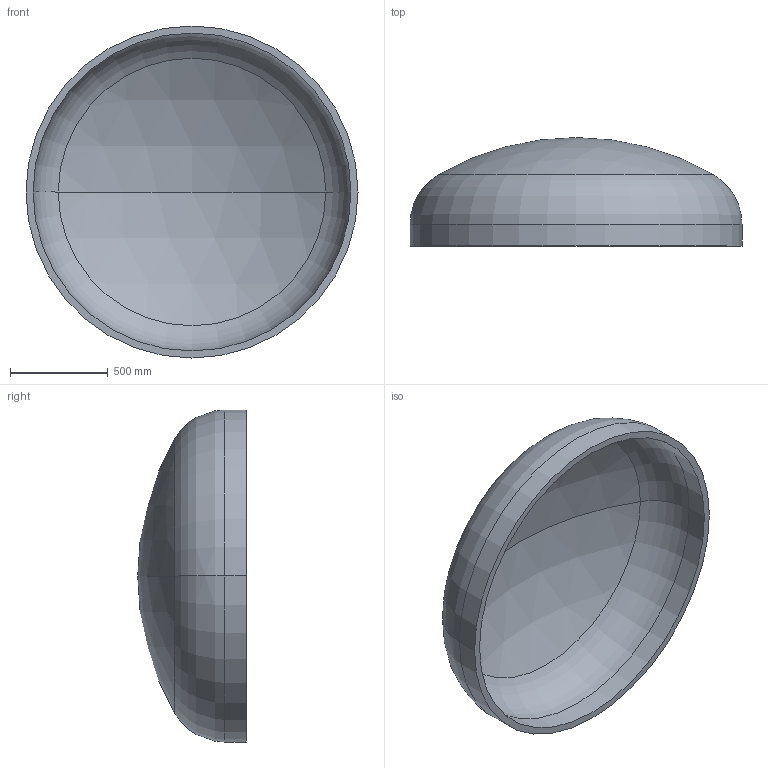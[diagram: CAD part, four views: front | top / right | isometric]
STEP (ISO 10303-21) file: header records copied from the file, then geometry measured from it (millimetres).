
FILE_DESCRIPTION (( 'STEP AP203' ), '1' );
FILE_NAME ('DIN 28013 Korbbogenform_-_Boden DIN 28013 - 1700 x 110 - I - s=36.step', '2016-07-01T11:47:37', ( '' ), ( '' ), 'SwSTEP 2.0', 'SolidWorks 2013', '' );
FILE_SCHEMA (( 'CONFIG_CONTROL_DESIGN' ));
Length unit declared in the file: millimetre
Products named in the file (1): DIN 28013 Korbbogenform_-_Boden DIN 28013 - 1700 x 110 - I - s=36
Bounding box: 1700 x 555.69 x 1700 mm (x, y, z)
Volume: 130613028.2 mm3; surface area: 7447185.4 mm2
Topology: 1 solids, 1 shells, 13 faces, 24 edges, 14 vertices
Faces by surface type: torus 4, cylinder 4, sphere 4, plane 1
Entity records: 407 total; most frequent: DIRECTION 72, CARTESIAN_POINT 52, ORIENTED_EDGE 48, AXIS2_PLACEMENT_3D 34, EDGE_CURVE 24, CIRCLE 20, VERTEX_POINT 14, EDGE_LOOP 14
